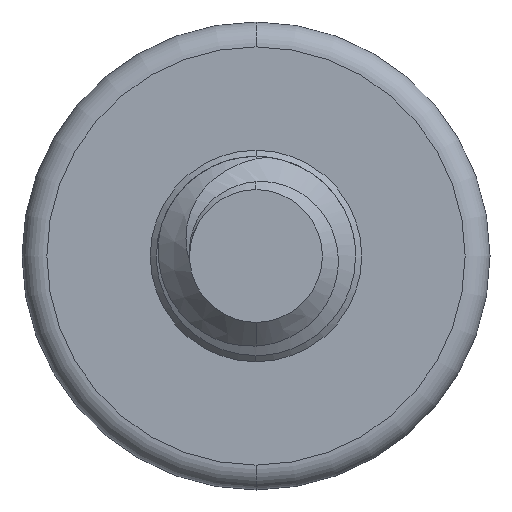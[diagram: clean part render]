
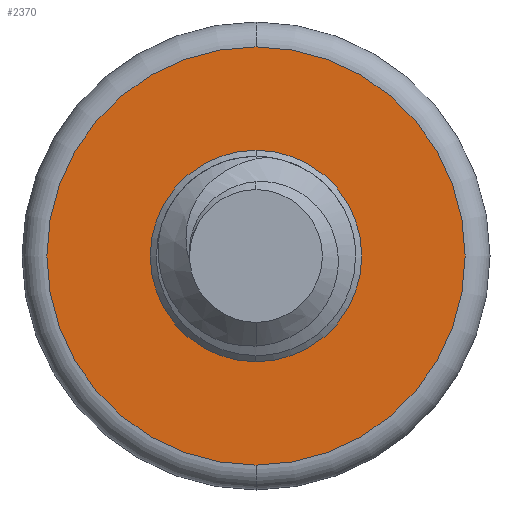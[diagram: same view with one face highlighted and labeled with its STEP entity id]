
A CAD part, left-side view. The second image highlights one B-rep face of the part: STEP entity #2370.
In plain terms, the highlighted planar face has unit normal (-1, 0, 0).
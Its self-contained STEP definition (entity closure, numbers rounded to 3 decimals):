
#302 = DIRECTION ( 'NONE',  ( -1., 0., 0. ) ) ;
#489 = DIRECTION ( 'NONE',  ( -1., 0., 0. ) ) ;
#700 = CARTESIAN_POINT ( 'NONE',  ( 3., 0., 0. ) ) ;
#716 = EDGE_CURVE ( 'NONE', #1539, #3715, #874, .T. ) ;
#728 = CIRCLE ( 'NONE', #3828, 0.425 ) ;
#781 = EDGE_CURVE ( 'NONE', #3556, #2935, #728, .T. ) ;
#874 = CIRCLE ( 'NONE', #1703, 0.84 ) ;
#1050 = ORIENTED_EDGE ( 'NONE', *, *, #5174, .T. ) ;
#1384 = EDGE_LOOP ( 'NONE', ( #1050, #2845 ) ) ;
#1539 = VERTEX_POINT ( 'NONE', #4593 ) ;
#1681 = DIRECTION ( 'NONE',  ( -1., 0., 0. ) ) ;
#1703 = AXIS2_PLACEMENT_3D ( 'NONE', #2908, #302, #3336 ) ;
#1839 = AXIS2_PLACEMENT_3D ( 'NONE', #1959, #4947, #2383 ) ;
#1959 = CARTESIAN_POINT ( 'NONE',  ( 3., 0., 0. ) ) ;
#2201 = CARTESIAN_POINT ( 'NONE',  ( 3., 0., -0.425 ) ) ;
#2325 = CARTESIAN_POINT ( 'NONE',  ( 3., 0., -0.84 ) ) ;
#2370 = ADVANCED_FACE ( 'NONE', ( #4950, #3821 ), #5021, .F. ) ;
#2383 = DIRECTION ( 'NONE',  ( 0., 0., -1. ) ) ;
#2845 = ORIENTED_EDGE ( 'NONE', *, *, #716, .T. ) ;
#2849 = AXIS2_PLACEMENT_3D ( 'NONE', #3091, #489, #3520 ) ;
#2873 = DIRECTION ( 'NONE',  ( 0., 0., -1. ) ) ;
#2908 = CARTESIAN_POINT ( 'NONE',  ( 3., 0., 0. ) ) ;
#2935 = VERTEX_POINT ( 'NONE', #4862 ) ;
#3091 = CARTESIAN_POINT ( 'NONE',  ( 3., 0., 0. ) ) ;
#3336 = DIRECTION ( 'NONE',  ( 0., 0., -1. ) ) ;
#3520 = DIRECTION ( 'NONE',  ( 0., 0., -1. ) ) ;
#3556 = VERTEX_POINT ( 'NONE', #2201 ) ;
#3715 = VERTEX_POINT ( 'NONE', #2325 ) ;
#3756 = EDGE_LOOP ( 'NONE', ( #4821, #3901 ) ) ;
#3821 = FACE_BOUND ( 'NONE', #3756, .T. ) ;
#3828 = AXIS2_PLACEMENT_3D ( 'NONE', #4263, #1681, #4680 ) ;
#3901 = ORIENTED_EDGE ( 'NONE', *, *, #781, .F. ) ;
#3912 = EDGE_CURVE ( 'NONE', #2935, #3556, #3980, .T. ) ;
#3980 = CIRCLE ( 'NONE', #2849, 0.425 ) ;
#4263 = CARTESIAN_POINT ( 'NONE',  ( 3., 0., 0. ) ) ;
#4593 = CARTESIAN_POINT ( 'NONE',  ( 3., 0., 0.84 ) ) ;
#4680 = DIRECTION ( 'NONE',  ( 0., 0., -1. ) ) ;
#4821 = ORIENTED_EDGE ( 'NONE', *, *, #3912, .F. ) ;
#4862 = CARTESIAN_POINT ( 'NONE',  ( 3., 0., 0.425 ) ) ;
#4908 = CIRCLE ( 'NONE', #1839, 0.84 ) ;
#4947 = DIRECTION ( 'NONE',  ( -1., 0., 0. ) ) ;
#4950 = FACE_OUTER_BOUND ( 'NONE', #1384, .T. ) ;
#5021 = PLANE ( 'NONE',  #5554 ) ;
#5174 = EDGE_CURVE ( 'NONE', #3715, #1539, #4908, .T. ) ;
#5447 = DIRECTION ( 'NONE',  ( 1., 0., 0. ) ) ;
#5554 = AXIS2_PLACEMENT_3D ( 'NONE', #700, #5447, #2873 ) ;
